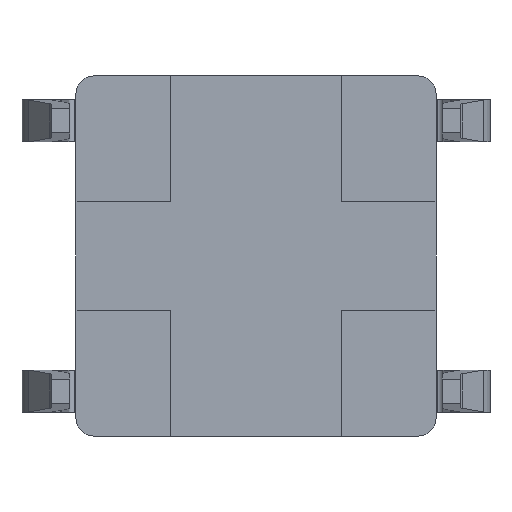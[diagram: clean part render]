
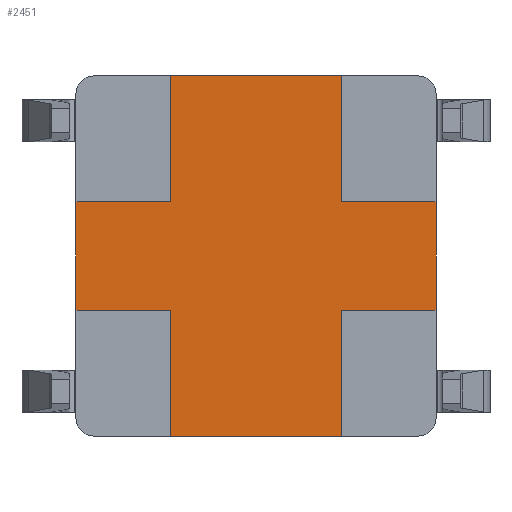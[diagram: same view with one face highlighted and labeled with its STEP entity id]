
A CAD part, front view. The second image highlights one B-rep face of the part: STEP entity #2451.
In plain terms, the highlighted planar face has unit normal (0, -1, 0).
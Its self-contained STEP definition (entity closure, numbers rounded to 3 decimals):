
#88=DIRECTION('',(-1.,0.,0.));
#89=VECTOR('',#88,2.85);
#90=CARTESIAN_POINT('',(1.425,0.5,3.));
#91=LINE('',#90,#89);
#116=DIRECTION('',(0.,0.,1.));
#117=VECTOR('',#116,2.1);
#118=CARTESIAN_POINT('',(1.425,0.5,0.9));
#119=LINE('',#118,#117);
#157=DIRECTION('',(0.,0.,1.));
#158=VECTOR('',#157,1.8);
#159=CARTESIAN_POINT('',(3.,0.5,-0.9));
#160=LINE('',#159,#158);
#165=DIRECTION('',(-1.,0.,0.));
#166=VECTOR('',#165,1.575);
#167=CARTESIAN_POINT('',(3.,0.5,0.9));
#168=LINE('',#167,#166);
#169=DIRECTION('',(0.,0.,1.));
#170=VECTOR('',#169,2.1);
#171=CARTESIAN_POINT('',(-1.425,0.5,-3.));
#172=LINE('',#171,#170);
#173=DIRECTION('',(-1.,0.,0.));
#174=VECTOR('',#173,1.575);
#175=CARTESIAN_POINT('',(-1.425,0.5,-0.9));
#176=LINE('',#175,#174);
#177=DIRECTION('',(0.,0.,1.));
#178=VECTOR('',#177,1.8);
#179=CARTESIAN_POINT('',(-3.,0.5,-0.9));
#180=LINE('',#179,#178);
#181=DIRECTION('',(1.,0.,0.));
#182=VECTOR('',#181,1.575);
#183=CARTESIAN_POINT('',(-3.,0.5,0.9));
#184=LINE('',#183,#182);
#185=DIRECTION('',(0.,0.,1.));
#186=VECTOR('',#185,2.1);
#187=CARTESIAN_POINT('',(-1.425,0.5,0.9));
#188=LINE('',#187,#186);
#189=DIRECTION('',(1.,0.,0.));
#190=VECTOR('',#189,1.575);
#191=CARTESIAN_POINT('',(1.425,0.5,-0.9));
#192=LINE('',#191,#190);
#193=DIRECTION('',(0.,0.,1.));
#194=VECTOR('',#193,2.1);
#195=CARTESIAN_POINT('',(1.425,0.5,-3.));
#196=LINE('',#195,#194);
#246=DIRECTION('',(1.,0.,0.));
#247=VECTOR('',#246,2.85);
#248=CARTESIAN_POINT('',(-1.425,0.5,-3.));
#249=LINE('',#248,#247);
#1745=CARTESIAN_POINT('',(-3.,0.5,-0.9));
#1747=VERTEX_POINT('',#1745);
#1760=CARTESIAN_POINT('',(-3.,0.5,0.9));
#1761=CARTESIAN_POINT('',(-1.425,0.5,0.9));
#1762=VERTEX_POINT('',#1760);
#1763=VERTEX_POINT('',#1761);
#1796=CARTESIAN_POINT('',(-1.425,0.5,-0.9));
#1797=VERTEX_POINT('',#1796);
#1798=CARTESIAN_POINT('',(-1.425,0.5,-3.));
#1799=VERTEX_POINT('',#1798);
#1800=CARTESIAN_POINT('',(1.425,0.5,-0.9));
#1801=CARTESIAN_POINT('',(3.,0.5,-0.9));
#1802=VERTEX_POINT('',#1800);
#1803=VERTEX_POINT('',#1801);
#1804=CARTESIAN_POINT('',(-1.425,0.5,3.));
#1805=VERTEX_POINT('',#1804);
#1806=CARTESIAN_POINT('',(1.425,0.5,3.));
#1807=VERTEX_POINT('',#1806);
#1812=CARTESIAN_POINT('',(1.425,0.5,-3.));
#1813=VERTEX_POINT('',#1812);
#1821=CARTESIAN_POINT('',(3.,0.5,0.9));
#1823=VERTEX_POINT('',#1821);
#1839=CARTESIAN_POINT('',(1.425,0.5,0.9));
#1841=VERTEX_POINT('',#1839);
#2427=CARTESIAN_POINT('',(0.,0.5,0.));
#2428=DIRECTION('',(0.,1.,0.));
#2429=DIRECTION('',(0.,0.,-1.));
#2430=AXIS2_PLACEMENT_3D('',#2427,#2428,#2429);
#2431=PLANE('',#2430);
#2433=ORIENTED_EDGE('',*,*,#2432,.F.);
#2435=ORIENTED_EDGE('',*,*,#2434,.F.);
#2437=ORIENTED_EDGE('',*,*,#2436,.F.);
#2439=ORIENTED_EDGE('',*,*,#2438,.T.);
#2441=ORIENTED_EDGE('',*,*,#2440,.T.);
#2442=ORIENTED_EDGE('',*,*,#2215,.T.);
#2443=ORIENTED_EDGE('',*,*,#2258,.T.);
#2444=ORIENTED_EDGE('',*,*,#2275,.T.);
#2445=ORIENTED_EDGE('',*,*,#2316,.F.);
#2446=ORIENTED_EDGE('',*,*,#2338,.F.);
#2447=ORIENTED_EDGE('',*,*,#2422,.F.);
#2448=ORIENTED_EDGE('',*,*,#2389,.F.);
#2449=EDGE_LOOP('',(#2433,#2435,#2437,#2439,#2441,#2442,#2443,#2444,#2445,#2446,
#2447,#2448));
#2450=FACE_OUTER_BOUND('',#2449,.F.);
#2215=EDGE_CURVE('',#1747,#1762,#180,.T.);
#2258=EDGE_CURVE('',#1762,#1763,#184,.T.);
#2275=EDGE_CURVE('',#1763,#1805,#188,.T.);
#2316=EDGE_CURVE('',#1807,#1805,#91,.T.);
#2338=EDGE_CURVE('',#1841,#1807,#119,.T.);
#2389=EDGE_CURVE('',#1803,#1823,#160,.T.);
#2422=EDGE_CURVE('',#1823,#1841,#168,.T.);
#2432=EDGE_CURVE('',#1802,#1803,#192,.T.);
#2434=EDGE_CURVE('',#1813,#1802,#196,.T.);
#2436=EDGE_CURVE('',#1799,#1813,#249,.T.);
#2438=EDGE_CURVE('',#1799,#1797,#172,.T.);
#2440=EDGE_CURVE('',#1797,#1747,#176,.T.);
#2451=ADVANCED_FACE('',(#2450),#2431,.F.);
